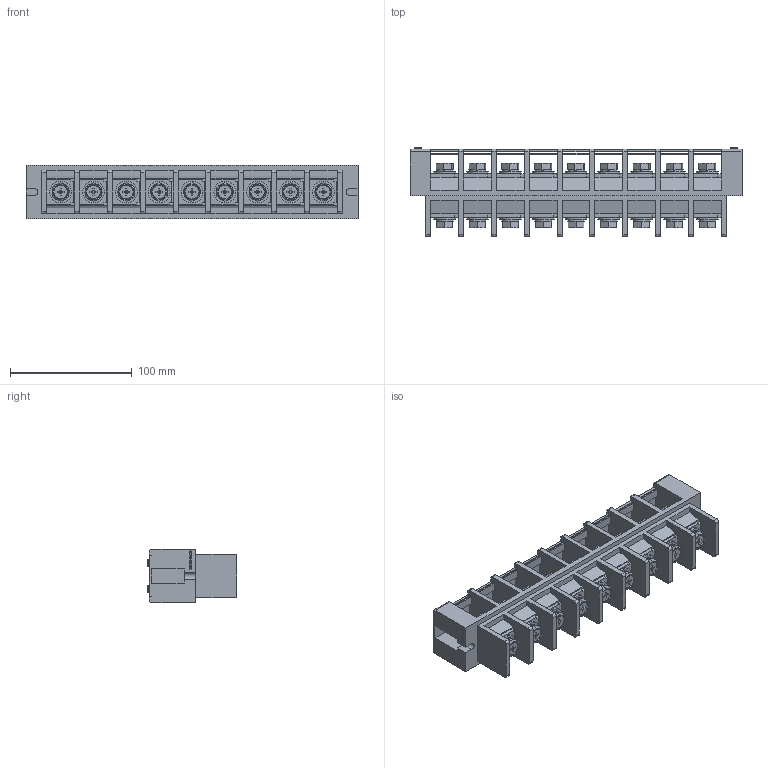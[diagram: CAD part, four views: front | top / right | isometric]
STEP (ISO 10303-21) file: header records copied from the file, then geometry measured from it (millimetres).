
FILE_DESCRIPTION(/* description */ ('Alibre Inc.'),/* implementation_level */ '2;1');
FILE_NAME(/* name */ 'export0',/* time_stamp */ '2016-04-05T18:46:41+09:00',/* author */ (''),/* organization */ (''),/* preprocessor_version */ 'ST-DEVELOPER v14',/* originating_system */ 'Alibre',/* authorisation */ '');
FILE_SCHEMA (('CONFIG_CONTROL_DESIGN'));
Length unit declared in the file: centimetre
Products named in the file (1): ID_1
Bounding box: 273 x 73.94 x 44 mm (x, y, z)
Volume: 320696.2 mm3; surface area: 147211 mm2
Topology: 2 solids, 4 shells, 1657 faces, 4537 edges, 2910 vertices
Faces by surface type: plane 1235, cone 224, cylinder 142, bspline 52, sphere 2, torus 2
Full cylindrical faces by diameter (mm): 3 x4, 5.5 x2, 8 x18, 18 x18
Entity records: 46709 total; most frequent: CARTESIAN_POINT 9125, ORIENTED_EDGE 8874, DIRECTION 5964, EDGE_CURVE 4437, VERTEX_POINT 2890, VECTOR 2773, LINE 2773, AXIS2_PLACEMENT_3D 2110
